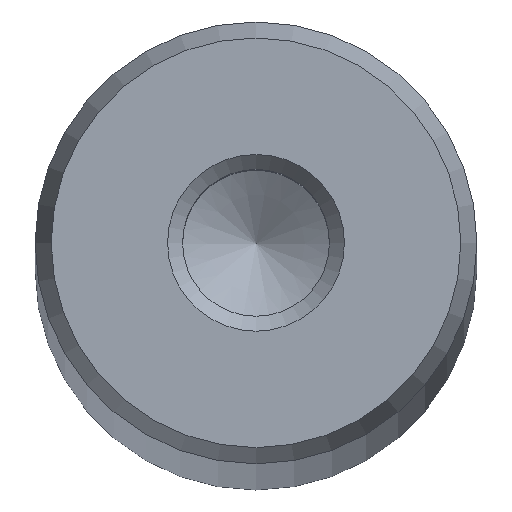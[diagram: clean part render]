
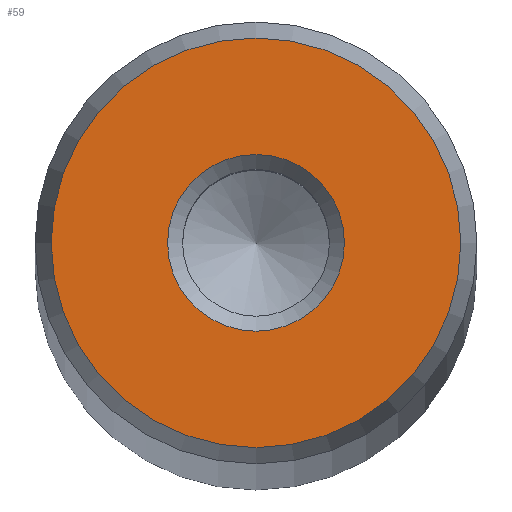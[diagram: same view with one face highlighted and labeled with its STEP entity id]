
A CAD part, top view. The second image highlights one B-rep face of the part: STEP entity #59.
In plain terms, the highlighted planar face has unit normal (0, 0, 1).
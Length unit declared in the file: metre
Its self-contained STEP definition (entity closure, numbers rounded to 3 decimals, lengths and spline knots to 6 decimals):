
#59 = ADVANCED_FACE( '', ( #124, #125 ), #126, .T. );
#124 = FACE_OUTER_BOUND( '', #183, .T. );
#125 = FACE_BOUND( '', #184, .T. );
#126 = PLANE( '', #185 );
#183 = EDGE_LOOP( '', ( #258 ) );
#184 = EDGE_LOOP( '', ( #259 ) );
#185 = AXIS2_PLACEMENT_3D( '', #260, #261, #262 );
#258 = ORIENTED_EDGE( '', *, *, #277, .T. );
#259 = ORIENTED_EDGE( '', *, *, #291, .T. );
#260 = CARTESIAN_POINT( '', ( 0., 0., 0.682 ) );
#261 = DIRECTION( '', ( 0., 0., 1. ) );
#262 = DIRECTION( '', ( 1., 0., 0. ) );
#277 = EDGE_CURVE( '', #309, #309, #310, .T. );
#291 = EDGE_CURVE( '', #328, #328, #329, .T. );
#309 = VERTEX_POINT( '', #346 );
#310 = CIRCLE( '', #347, 0.009272 );
#328 = VERTEX_POINT( '', #365 );
#329 = CIRCLE( '', #366, 0.004 );
#346 = CARTESIAN_POINT( '', ( 0.009272, 0., 0.682 ) );
#347 = AXIS2_PLACEMENT_3D( '', #385, #386, #387 );
#365 = CARTESIAN_POINT( '', ( 0.004, 0., 0.682 ) );
#366 = AXIS2_PLACEMENT_3D( '', #403, #404, #405 );
#385 = CARTESIAN_POINT( '', ( 0., 0., 0.682 ) );
#386 = DIRECTION( '', ( 0., 0., 1. ) );
#387 = DIRECTION( '', ( 1., 0., 0. ) );
#403 = CARTESIAN_POINT( '', ( 0., 0., 0.682 ) );
#404 = DIRECTION( '', ( 0., 0., -1. ) );
#405 = DIRECTION( '', ( 1., 0., 0. ) );
